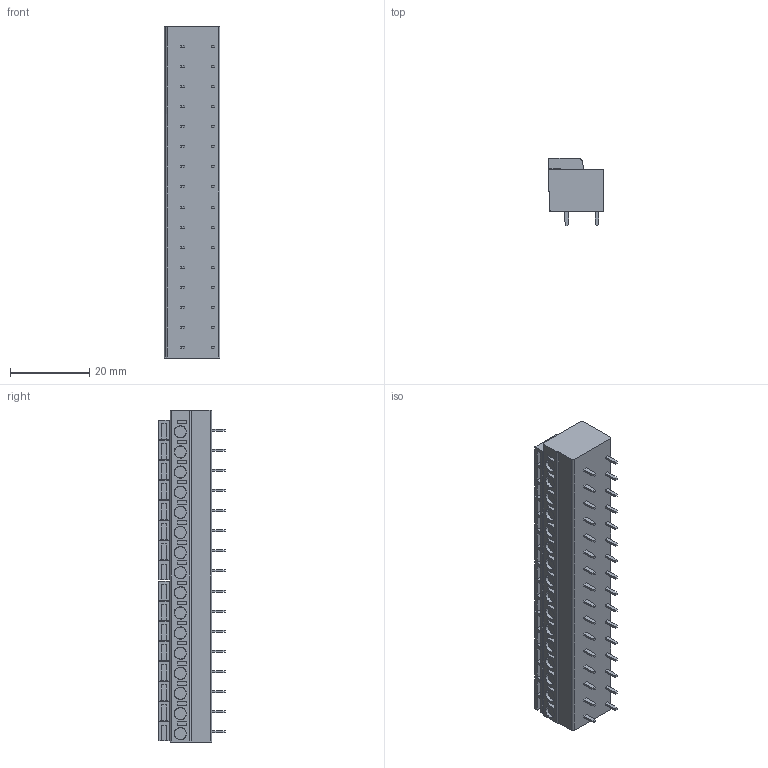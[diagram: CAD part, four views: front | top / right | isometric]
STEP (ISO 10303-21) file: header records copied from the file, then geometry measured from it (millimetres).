
FILE_DESCRIPTION((''),'2;1');
FILE_NAME('PRT0004','2020-06-12T',('P'),(''),'PRO/ENGINEER BY PARAMETRIC TECHNOLOGY CORPORATION, 2010280','PRO/ENGINEER BY PARAMETRIC TECHNOLOGY CORPORATION, 2010280','');
FILE_SCHEMA(('CONFIG_CONTROL_DESIGN'));
Length unit declared in the file: millimetre
Products named in the file (1): PRT0004
Bounding box: 14.1 x 16.9 x 83.82 mm (x, y, z)
Volume: 13168.8 mm3; surface area: 7138.8 mm2
Topology: 1 solids, 17 shells, 764 faces, 2151 edges, 1501 vertices
Faces by surface type: plane 647, cylinder 85, cone 32
Entity records: 24803 total; most frequent: CARTESIAN_POINT 4649, ORIENTED_EDGE 4302, DIRECTION 3901, EDGE_CURVE 2151, VECTOR 1807, LINE 1807, VERTEX_POINT 1501, AXIS2_PLACEMENT_3D 1047
